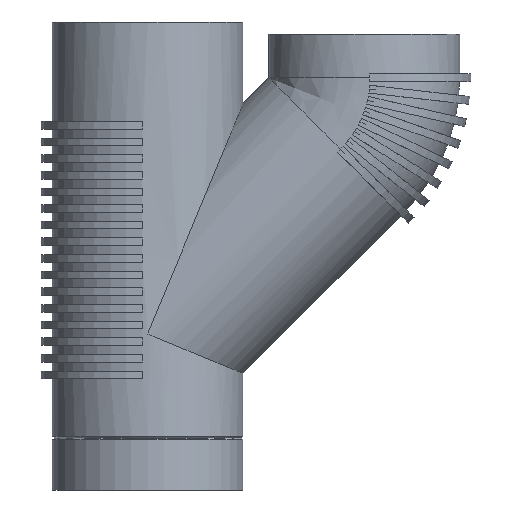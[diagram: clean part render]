
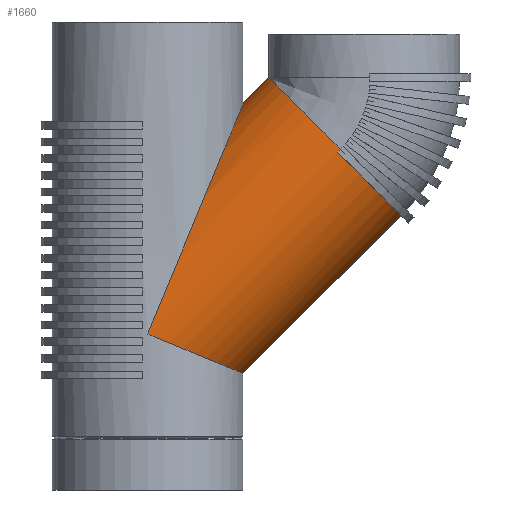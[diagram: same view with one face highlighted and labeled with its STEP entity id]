
A CAD part, front view. The second image highlights one B-rep face of the part: STEP entity #1660.
In plain terms, the highlighted cylindrical face has radius 55 mm (diameter 110 mm), a full revolution.
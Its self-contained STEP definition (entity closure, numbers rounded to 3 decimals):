
#14=ELLIPSE($,#1887,59.532,55.);
#15=ELLIPSE($,#1888,143.722,55.);
#60=LINE($,#2421,#110);
#61=LINE($,#2423,#111);
#110=VECTOR($,#1920,2.275);
#111=VECTOR($,#1921,2.275);
#253=CYLINDRICAL_SURFACE($,#1886,55.);
#272=FACE_BOUND($,#502,.T.);
#390=FACE_OUTER_BOUND($,#501,.T.);
#501=EDGE_LOOP($,(#1376,#1377,#1378,#1379,#1380));
#502=EDGE_LOOP($,(#1381,#1382));
#534=CIRCLE($,#1677,55.);
#580=CIRCLE($,#1760,55.);
#581=CIRCLE($,#1761,55.);
#658=VERTEX_POINT($,#2415);
#659=VERTEX_POINT($,#2416);
#660=VERTEX_POINT($,#2420);
#661=VERTEX_POINT($,#2422);
#727=VERTEX_POINT($,#3089);
#799=VERTEX_POINT($,#3321);
#800=VERTEX_POINT($,#3322);
#807=EDGE_CURVE($,#658,#659,#534,.T.);
#809=EDGE_CURVE($,#659,#660,#60,.T.);
#810=EDGE_CURVE($,#661,#658,#61,.T.);
#913=EDGE_CURVE($,#727,#660,#580,.T.);
#914=EDGE_CURVE($,#661,#727,#581,.T.);
#1019=EDGE_CURVE($,#799,#800,#14,.T.);
#1020=EDGE_CURVE($,#800,#799,#15,.T.);
#1376=ORIENTED_EDGE($,*,*,#809,.T.);
#1377=ORIENTED_EDGE($,*,*,#913,.F.);
#1378=ORIENTED_EDGE($,*,*,#914,.F.);
#1379=ORIENTED_EDGE($,*,*,#810,.T.);
#1380=ORIENTED_EDGE($,*,*,#807,.T.);
#1381=ORIENTED_EDGE($,*,*,#1019,.F.);
#1382=ORIENTED_EDGE($,*,*,#1020,.F.);
#1660=ADVANCED_FACE($,(#390,#272),#253,.T.);
#1677=AXIS2_PLACEMENT_3D($,#2417,#1914,#1915);
#1760=AXIS2_PLACEMENT_3D($,#3091,#2098,#2099);
#1761=AXIS2_PLACEMENT_3D($,#3092,#2100,#2101);
#1886=AXIS2_PLACEMENT_3D($,#3320,#2382,#2383);
#1887=AXIS2_PLACEMENT_3D($,#3323,#2384,#2385);
#1888=AXIS2_PLACEMENT_3D($,#3324,#2386,#2387);
#1914=DIRECTION('center_axis',(-0.707,0.,-0.707));
#1915=DIRECTION('ref_axis',(0.707,0.,-0.707));
#1920=DIRECTION($,(0.707,0.,0.707));
#1921=DIRECTION($,(-0.707,0.,-0.707));
#2098=DIRECTION('center_axis',(0.707,0.,0.707));
#2099=DIRECTION('ref_axis',(0.707,0.,-0.707));
#2100=DIRECTION('center_axis',(0.707,0.,0.707));
#2101=DIRECTION('ref_axis',(0.707,0.,-0.707));
#2382=DIRECTION('center_axis',(-0.707,0.,-0.707));
#2383=DIRECTION('ref_axis',(0.707,0.,-0.707));
#2384=DIRECTION('center_axis',(-0.383,0.,-0.924));
#2385=DIRECTION('ref_axis',(0.924,0.,-0.383));
#2386=DIRECTION('center_axis',(-0.924,0.,0.383));
#2387=DIRECTION('ref_axis',(-0.383,0.,-0.924));
#2415=CARTESIAN_POINT('',(109.58,54.904,194.984));
#2416=CARTESIAN_POINT('',(109.58,-54.904,194.984));
#2417=CARTESIAN_POINT('Origin',(107.282,0.,197.282));
#2420=CARTESIAN_POINT('',(111.189,-54.904,196.593));
#2421=CARTESIAN_POINT($,(111.189,-54.904,196.593));
#2422=CARTESIAN_POINT('',(111.189,54.904,196.593));
#2423=CARTESIAN_POINT($,(111.189,54.904,196.593));
#3089=CARTESIAN_POINT('',(70.,0.,237.782));
#3091=CARTESIAN_POINT('Origin',(108.891,0.,198.891));
#3092=CARTESIAN_POINT('Origin',(108.891,0.,198.891));
#3320=CARTESIAN_POINT('Origin',(108.891,0.,198.891));
#3321=CARTESIAN_POINT('',(0.,55.,90.));
#3322=CARTESIAN_POINT('',(0.,-55.,90.));
#3323=CARTESIAN_POINT('Origin',(0.,0.,90.));
#3324=CARTESIAN_POINT('Origin',(0.,0.,90.));
